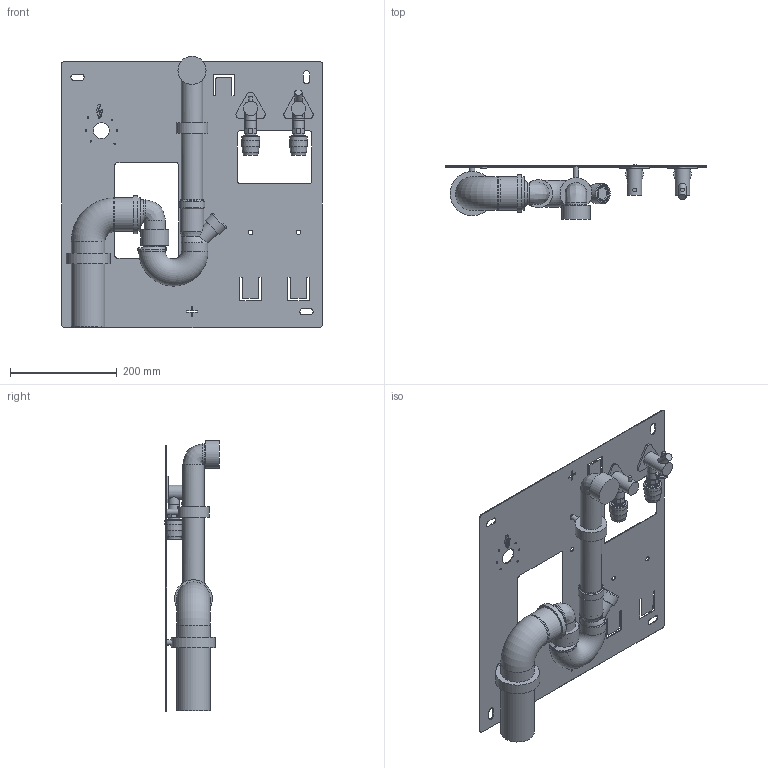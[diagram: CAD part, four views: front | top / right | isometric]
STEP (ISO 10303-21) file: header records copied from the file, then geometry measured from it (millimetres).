
FILE_DESCRIPTION(('STEP AP214'),'1');
FILE_NAME('NYFFix_7920R.STP','2025-09-02T09:28:46',(' '),(' '),'Spatial InterOp 3D',' ',' ');
FILE_SCHEMA(('AUTOMOTIVE_DESIGN { 1 0 10303 214 1 1 1 1 }'));
Length unit declared in the file: millimetre
Products named in the file (1): Torus
Bounding box: 490 x 102.31 x 509.28 mm (x, y, z)
Volume: 1075538.9 mm3; surface area: 849638.1 mm2
Topology: 32 solids, 32 shells, 498 faces, 1226 edges, 794 vertices
Faces by surface type: plane 224, cylinder 213, cone 27, torus 19, bspline 15
Full cylindrical faces by diameter (mm): 0 x6, 3 x6, 5.1 x6, 7 x2, 8.5 x5, 10 x2, 13.867 x1, 14 x1, 20.954 x2, 21 x4, 22 x1, 22.622 x1, 26.818 x2, 27.32 x2, 30 x2, 30.2 x2, 33.249 x2, 33.62 x2, 36 x3, 36.1 x2, 38 x1, 39 x1, 40 x5, 40.1 x2, 40.5 x1, 40.625 x1, 44.5 x6, 46 x2, 48 x2, 48.318 x1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
Entity records: 17402 total; most frequent: CARTESIAN_POINT 4253, DIRECTION 2463, ORIENTED_EDGE 2104, EDGE_CURVE 1052, AXIS2_PLACEMENT_3D 994, VERTEX_POINT 762, EDGE_LOOP 732, ADVANCED_FACE 498
